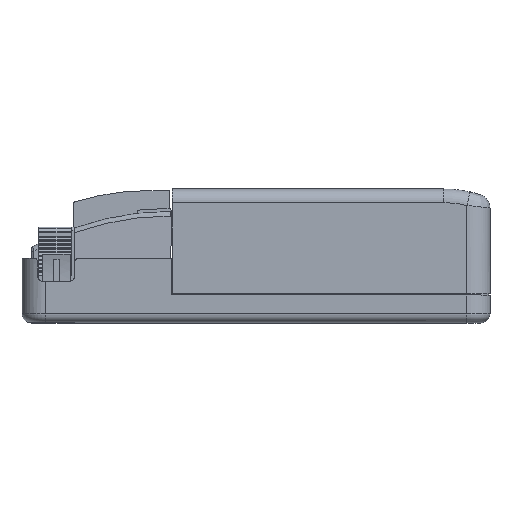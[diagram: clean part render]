
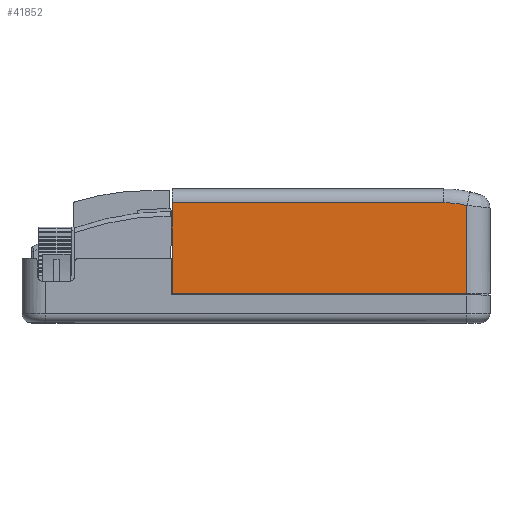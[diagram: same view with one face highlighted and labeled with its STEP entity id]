
A CAD part, top view. The second image highlights one B-rep face of the part: STEP entity #41852.
In plain terms, the highlighted planar face has unit normal (0, 0, 1).
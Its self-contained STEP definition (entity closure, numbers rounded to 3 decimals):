
#38682=CARTESIAN_POINT('',(45.75,25.424,24.5));
#38687=DIRECTION('',(1.,0.,0.));
#38688=VECTOR('',#38687,63.87);
#38689=CARTESIAN_POINT('',(-18.12,6.3,24.5));
#38690=LINE('',#38689,#38688);
#38694=DIRECTION('',(0.,1.,0.));
#38695=VECTOR('',#38694,19.7);
#38696=CARTESIAN_POINT('',(-18.12,6.3,24.5));
#38697=LINE('',#38696,#38695);
#38701=DIRECTION('',(-1.,0.,0.));
#38702=VECTOR('',#38701,58.87);
#38703=CARTESIAN_POINT('',(40.75,26.,24.5));
#38704=LINE('',#38703,#38702);
#38708=CARTESIAN_POINT('',(40.75,4.,24.5));
#38709=DIRECTION('',(0.,0.,1.));
#38710=DIRECTION('',(0.227,0.974,0.));
#38711=AXIS2_PLACEMENT_3D('',#38708,#38709,#38710);
#38716=DIRECTION('',(0.,1.,0.));
#38717=VECTOR('',#38716,19.124);
#38718=CARTESIAN_POINT('',(45.75,6.3,24.5));
#38719=LINE('',#38718,#38717);
#41198=VERTEX_POINT('',#38682);
#41200=CARTESIAN_POINT('',(40.75,26.,24.5));
#41201=VERTEX_POINT('',#41200);
#41368=CARTESIAN_POINT('',(-18.12,26.,24.5));
#41370=VERTEX_POINT('',#41368);
#41486=CARTESIAN_POINT('',(-18.12,6.3,24.5));
#41487=CARTESIAN_POINT('',(45.75,6.3,24.5));
#41488=VERTEX_POINT('',#41486);
#41489=VERTEX_POINT('',#41487);
#41838=CARTESIAN_POINT('',(0.,0.,24.5));
#41839=DIRECTION('',(0.,0.,1.));
#41840=DIRECTION('',(1.,0.,0.));
#41841=AXIS2_PLACEMENT_3D('',#41838,#41839,#41840);
#41842=PLANE('',#41841);
#41843=ORIENTED_EDGE('',*,*,#41734,.F.);
#41844=ORIENTED_EDGE('',*,*,#41703,.T.);
#41846=ORIENTED_EDGE('',*,*,#41845,.F.);
#41848=ORIENTED_EDGE('',*,*,#41847,.F.);
#41849=ORIENTED_EDGE('',*,*,#41823,.F.);
#41850=EDGE_LOOP('',(#41843,#41844,#41846,#41848,#41849));
#41851=FACE_OUTER_BOUND('',#41850,.F.);
#38712=CIRCLE('',#38711,22.);
#41703=EDGE_CURVE('',#41488,#41370,#38697,.T.);
#41734=EDGE_CURVE('',#41488,#41489,#38690,.T.);
#41823=EDGE_CURVE('',#41489,#41198,#38719,.T.);
#41845=EDGE_CURVE('',#41201,#41370,#38704,.T.);
#41847=EDGE_CURVE('',#41198,#41201,#38712,.T.);
#41852=ADVANCED_FACE('',(#41851),#41842,.T.);
